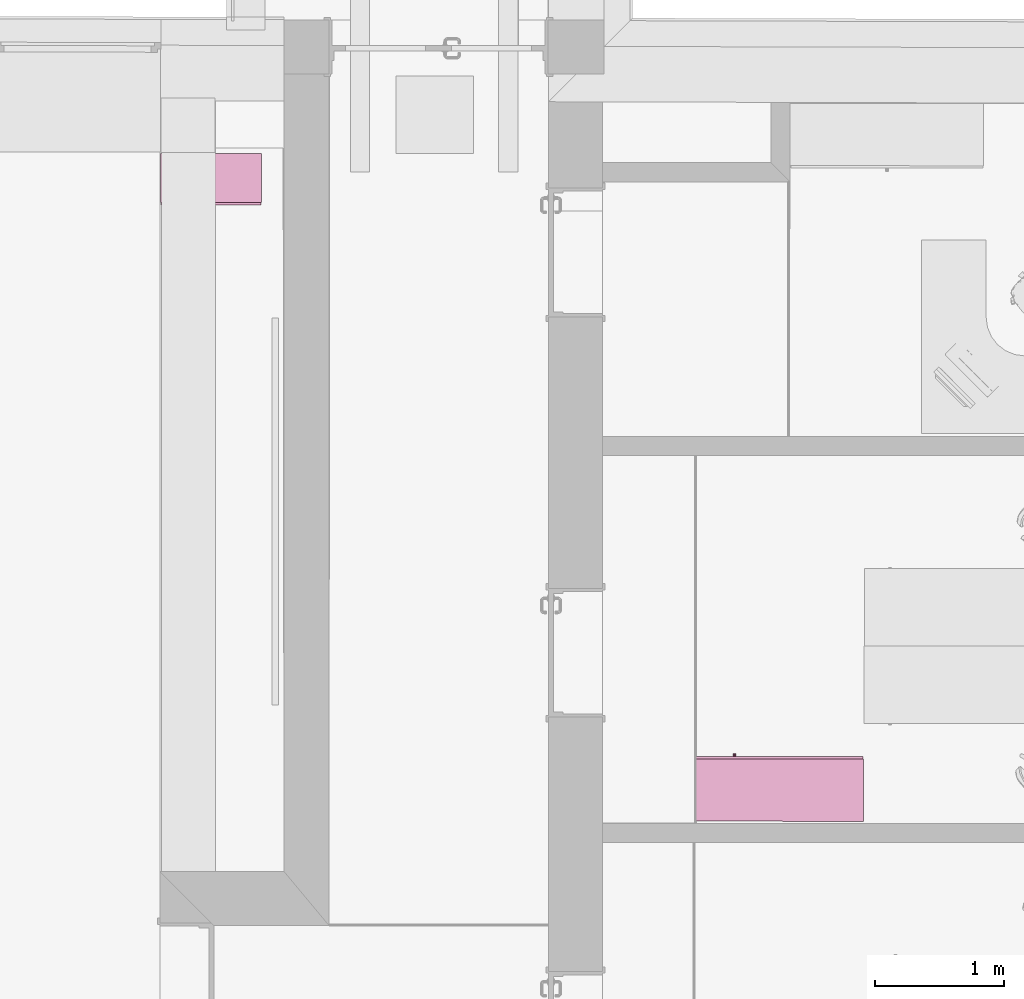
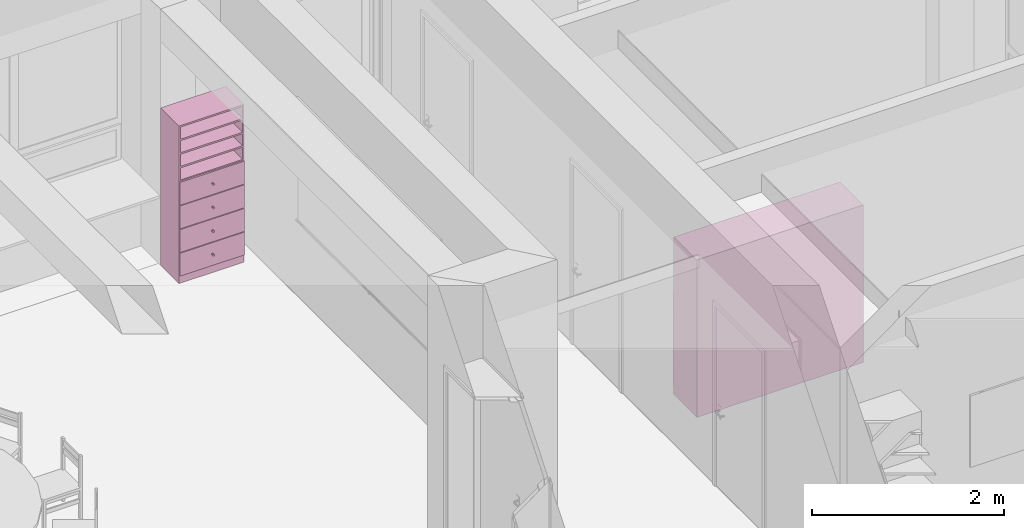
# One storey, part 150 of 194: 2 furnishings.
"""IFC2X3 building model written with IfcOpenShell, lengths in millimetres."""

from ifc_helpers import new_model, entity, si_unit, converted_unit, derived_unit, money_unit, direction, frame, origin_with_axes, place, context, subcontext, project, spatial, faceted_brep, type_object, element, save


model = new_model("IFC2X3")

# Units and contexts
model_context = context("Model", 3, precision=1e-05, world=origin_with_axes(), true_north=direction((0.0, 1.0)))
body_context = subcontext(model_context, "Body", "Model", "MODEL_VIEW")
ifc_project = project(units=[si_unit("LENGTHUNIT", "METRE", prefix="MILLI"), si_unit("AREAUNIT", "SQUARE_METRE"), si_unit("VOLUMEUNIT", "CUBIC_METRE"), converted_unit("PLANEANGLEUNIT", "DEGREE", entity("IfcPlaneAngleMeasure", 0.0174532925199), si_unit("PLANEANGLEUNIT", "RADIAN"), dimensions=[0, 0, 0, 0, 0, 0, 0]), si_unit("SOLIDANGLEUNIT", "STERADIAN"), money_unit("EUR"), converted_unit("TIMEUNIT", "Year", entity("IfcTimeMeasure", 31556926.0), si_unit("TIMEUNIT", "SECOND"), dimensions=[0, 0, 1, 0, 0, 0, 0]), si_unit("MASSUNIT", "GRAM", prefix="KILO"), si_unit("THERMODYNAMICTEMPERATUREUNIT", "DEGREE_CELSIUS"), si_unit("LUMINOUSINTENSITYUNIT", "LUMEN"), si_unit("ENERGYUNIT", "JOULE", prefix="MEGA"), derived_unit("THERMALCONDUCTANCEUNIT", [(si_unit("POWERUNIT", "WATT"), 1), (si_unit("LENGTHUNIT", "METRE"), -1), (si_unit("THERMODYNAMICTEMPERATUREUNIT", "KELVIN"), -1)]), derived_unit("SPECIFICHEATCAPACITYUNIT", [(si_unit("ENERGYUNIT", "JOULE"), 1), (si_unit("MASSUNIT", "GRAM", prefix="KILO"), -1), (si_unit("THERMODYNAMICTEMPERATUREUNIT", "KELVIN"), -1)]), derived_unit("MASSDENSITYUNIT", [(si_unit("MASSUNIT", "GRAM", prefix="KILO"), 1), (si_unit("VOLUMEUNIT", "CUBIC_METRE"), -1)])], contexts=[model_context])

# Site, building, storey
site_placement = place(None, origin_with_axes())
site = spatial("IfcSite", under=ifc_project, at=site_placement, Name="Site", CompositionType="ELEMENT")
building_placement = place(site_placement, origin_with_axes())
building = spatial("IfcBuilding", under=site, at=building_placement, Name="Building", CompositionType="ELEMENT")
storey_placement = place(building_placement, frame((0.0, 0.0, 3000.0), z_axis=(0.0, 0.0, 1.0), x_axis=(1.0, 0.0, 0.0)))
storey = spatial("IfcBuildingStorey", under=building, at=storey_placement, Name="2 KORRUS", CompositionType="ELEMENT", Elevation=3000.0)

# Furnishings
furnishing_element_type_1 = type_object("IfcFurnishingElementType", Name="Model Element 151")
furnishing_1_placement = place(storey_placement, frame((42180.7615968, 17256.984084, 0.0), z_axis=(0.0, 0.0, 1.0), x_axis=(-0.999999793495, 0.000642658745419, 0.0)))
element("IfcFurnishingElement", 1, at=furnishing_1_placement, inside=storey, type_object=furnishing_element_type_1, Name="FU - 001", context=body_context, shape_type="Brep", body=[
    faceted_brep([(2000.0, 19.0, 0.0), (0.0, 19.0, 0.0), (0.0, 501.725363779, 0.0), (2000.0, 501.725363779, 0.0), (2000.0, 19.0, 100.0), (0.0, 19.0, 100.0), (0.0, 501.725363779, 100.0), (2000.0, 501.725363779, 100.0)], [[[0, 1, 2, 3]], [[1, 0, 4, 5]], [[2, 1, 5, 6]], [[3, 2, 6, 7]], [[0, 3, 7, 4]], [[5, 4, 7, 6]]]),
    faceted_brep([(19.0, 501.725363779, 119.0), (19.0, 482.725363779, 119.0), (19.0, 482.725363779, 1981.0), (19.0, 501.725363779, 1981.0), (1981.0, 501.725363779, 119.0), (1981.0, 482.725363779, 119.0), (1981.0, 482.725363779, 1981.0), (1981.0, 501.725363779, 1981.0)], [[[0, 1, 2, 3]], [[0, 4, 5, 1]], [[1, 5, 6, 2]], [[3, 2, 6, 7]], [[4, 0, 3, 7]], [[5, 4, 7, 6]]]),
    faceted_brep([(2000.0, 19.0, 100.0), (1981.0, 19.0, 100.0), (1981.0, 501.725363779, 100.0), (2000.0, 501.725363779, 100.0), (2000.0, 19.0, 2000.0), (1981.0, 19.0, 2000.0), (1981.0, 501.725363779, 2000.0), (2000.0, 501.725363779, 2000.0)], [[[0, 1, 2, 3]], [[1, 0, 4, 5]], [[2, 1, 5, 6]], [[3, 2, 6, 7]], [[0, 3, 7, 4]], [[5, 4, 7, 6]]]),
    faceted_brep([(19.0, 19.0, 100.0), (0.0, 19.0, 100.0), (0.0, 501.725363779, 100.0), (19.0, 501.725363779, 100.0), (19.0, 19.0, 2000.0), (0.0, 19.0, 2000.0), (0.0, 501.725363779, 2000.0), (19.0, 501.725363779, 2000.0)], [[[0, 1, 2, 3]], [[1, 0, 4, 5]], [[2, 1, 5, 6]], [[3, 2, 6, 7]], [[0, 3, 7, 4]], [[5, 4, 7, 6]]]),
    faceted_brep([(1981.0, 19.0, 100.0), (19.0, 19.0, 100.0), (19.0, 501.725363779, 100.0), (1981.0, 501.725363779, 100.0), (1981.0, 19.0, 119.0), (19.0, 19.0, 119.0), (19.0, 501.725363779, 119.0), (1981.0, 501.725363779, 119.0)], [[[0, 1, 2, 3]], [[1, 0, 4, 5]], [[2, 1, 5, 6]], [[3, 2, 6, 7]], [[0, 3, 7, 4]], [[5, 4, 7, 6]]]),
    faceted_brep([(1981.0, 19.0, 1981.0), (19.0, 19.0, 1981.0), (19.0, 501.725363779, 1981.0), (1981.0, 501.725363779, 1981.0), (1981.0, 19.0, 2000.0), (19.0, 19.0, 2000.0), (19.0, 501.725363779, 2000.0), (1981.0, 501.725363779, 2000.0)], [[[0, 1, 2, 3]], [[1, 0, 4, 5]], [[2, 1, 5, 6]], [[3, 2, 6, 7]], [[0, 3, 7, 4]], [[5, 4, 7, 6]]]),
    faceted_brep([(5.0, 19.0, 105.0), (1995.0, 19.0, 105.0), (1995.0, 0.0, 105.0), (5.0, 0.0, 105.0), (5.0, 19.0, 395.0), (1995.0, 19.0, 395.0), (1995.0, 0.0, 395.0), (5.0, 0.0, 395.0)], [[[0, 1, 2, 3]], [[0, 4, 5, 1]], [[1, 5, 6, 2]], [[3, 2, 6, 7]], [[4, 0, 3, 7]], [[5, 4, 7, 6]]]),
    faceted_brep([(1010.39230485, 0.0, 244.0), (1006.0, 0.0, 239.607695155), (1000.0, 0.0, 238.0), (994.0, 0.0, 239.607695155), (989.607695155, 0.0, 244.0), (988.0, 0.0, 250.0), (989.607695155, 0.0, 256.0), (994.0, 0.0, 260.392304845), (1000.0, 0.0, 262.0), (1006.0, 0.0, 260.392304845), (1010.39230485, 0.0, 256.0), (1012.0, 0.0, 250.0), (1010.39230485, -25.0, 244.0), (1006.0, -25.0, 239.607695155), (1000.0, -25.0, 238.0), (994.0, -25.0, 239.607695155), (989.607695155, -25.0, 244.0), (988.0, -25.0, 250.0), (989.607695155, -25.0, 256.0), (994.0, -25.0, 260.392304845), (1000.0, -25.0, 262.0), (1006.0, -25.0, 260.392304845), (1010.39230485, -25.0, 256.0), (1012.0, -25.0, 250.0)], [[[0, 1, 2, 3, 4, 5, 6, 7, 8, 9, 10, 11]], [[1, 0, 12, 13]], [[2, 1, 13, 14]], [[3, 2, 14, 15]], [[4, 3, 15, 16]], [[5, 4, 16, 17]], [[6, 5, 17, 18]], [[7, 6, 18, 19]], [[8, 7, 19, 20]], [[9, 8, 20, 21]], [[10, 9, 21, 22]], [[11, 10, 22, 23]], [[0, 11, 23, 12]], [[12, 23, 22, 21, 20, 19, 18, 17, 16, 15, 14, 13]]]),
    faceted_brep([(5.0, 19.0, 405.0), (1995.0, 19.0, 405.0), (1995.0, 0.0, 405.0), (5.0, 0.0, 405.0), (5.0, 19.0, 695.0), (1995.0, 19.0, 695.0), (1995.0, 0.0, 695.0), (5.0, 0.0, 695.0)], [[[0, 1, 2, 3]], [[0, 4, 5, 1]], [[1, 5, 6, 2]], [[3, 2, 6, 7]], [[4, 0, 3, 7]], [[5, 4, 7, 6]]]),
    faceted_brep([(1010.39230485, 0.0, 544.0), (1006.0, 0.0, 539.607695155), (1000.0, 0.0, 538.0), (994.0, 0.0, 539.607695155), (989.607695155, 0.0, 544.0), (988.0, 0.0, 550.0), (989.607695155, 0.0, 556.0), (994.0, 0.0, 560.392304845), (1000.0, 0.0, 562.0), (1006.0, 0.0, 560.392304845), (1010.39230485, 0.0, 556.0), (1012.0, 0.0, 550.0), (1010.39230485, -25.0, 544.0), (1006.0, -25.0, 539.607695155), (1000.0, -25.0, 538.0), (994.0, -25.0, 539.607695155), (989.607695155, -25.0, 544.0), (988.0, -25.0, 550.0), (989.607695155, -25.0, 556.0), (994.0, -25.0, 560.392304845), (1000.0, -25.0, 562.0), (1006.0, -25.0, 560.392304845), (1010.39230485, -25.0, 556.0), (1012.0, -25.0, 550.0)], [[[0, 1, 2, 3, 4, 5, 6, 7, 8, 9, 10, 11]], [[1, 0, 12, 13]], [[2, 1, 13, 14]], [[3, 2, 14, 15]], [[4, 3, 15, 16]], [[5, 4, 16, 17]], [[6, 5, 17, 18]], [[7, 6, 18, 19]], [[8, 7, 19, 20]], [[9, 8, 20, 21]], [[10, 9, 21, 22]], [[11, 10, 22, 23]], [[0, 11, 23, 12]], [[12, 23, 22, 21, 20, 19, 18, 17, 16, 15, 14, 13]]]),
    faceted_brep([(5.0, 19.0, 705.0), (1995.0, 19.0, 705.0), (1995.0, 0.0, 705.0), (5.0, 0.0, 705.0), (5.0, 19.0, 995.0), (1995.0, 19.0, 995.0), (1995.0, 0.0, 995.0), (5.0, 0.0, 995.0)], [[[0, 1, 2, 3]], [[0, 4, 5, 1]], [[1, 5, 6, 2]], [[3, 2, 6, 7]], [[4, 0, 3, 7]], [[5, 4, 7, 6]]]),
    faceted_brep([(1010.39230485, 0.0, 844.0), (1006.0, 0.0, 839.607695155), (1000.0, 0.0, 838.0), (994.0, 0.0, 839.607695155), (989.607695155, 0.0, 844.0), (988.0, 0.0, 850.0), (989.607695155, 0.0, 856.0), (994.0, 0.0, 860.392304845), (1000.0, 0.0, 862.0), (1006.0, 0.0, 860.392304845), (1010.39230485, 0.0, 856.0), (1012.0, 0.0, 850.0), (1010.39230485, -25.0, 844.0), (1006.0, -25.0, 839.607695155), (1000.0, -25.0, 838.0), (994.0, -25.0, 839.607695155), (989.607695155, -25.0, 844.0), (988.0, -25.0, 850.0), (989.607695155, -25.0, 856.0), (994.0, -25.0, 860.392304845), (1000.0, -25.0, 862.0), (1006.0, -25.0, 860.392304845), (1010.39230485, -25.0, 856.0), (1012.0, -25.0, 850.0)], [[[0, 1, 2, 3, 4, 5, 6, 7, 8, 9, 10, 11]], [[1, 0, 12, 13]], [[2, 1, 13, 14]], [[3, 2, 14, 15]], [[4, 3, 15, 16]], [[5, 4, 16, 17]], [[6, 5, 17, 18]], [[7, 6, 18, 19]], [[8, 7, 19, 20]], [[9, 8, 20, 21]], [[10, 9, 21, 22]], [[11, 10, 22, 23]], [[0, 11, 23, 12]], [[12, 23, 22, 21, 20, 19, 18, 17, 16, 15, 14, 13]]]),
    faceted_brep([(5.0, 19.0, 1005.0), (1995.0, 19.0, 1005.0), (1995.0, 0.0, 1005.0), (5.0, 0.0, 1005.0), (5.0, 19.0, 1295.0), (1995.0, 19.0, 1295.0), (1995.0, 0.0, 1295.0), (5.0, 0.0, 1295.0)], [[[0, 1, 2, 3]], [[0, 4, 5, 1]], [[1, 5, 6, 2]], [[3, 2, 6, 7]], [[4, 0, 3, 7]], [[5, 4, 7, 6]]]),
    faceted_brep([(1010.39230485, 0.0, 1144.0), (1006.0, 0.0, 1139.60769515), (1000.0, 0.0, 1138.0), (994.0, 0.0, 1139.60769515), (989.607695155, 0.0, 1144.0), (988.0, 0.0, 1150.0), (989.607695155, 0.0, 1156.0), (994.0, 0.0, 1160.39230485), (1000.0, 0.0, 1162.0), (1006.0, 0.0, 1160.39230485), (1010.39230485, 0.0, 1156.0), (1012.0, 0.0, 1150.0), (1010.39230485, -25.0, 1144.0), (1006.0, -25.0, 1139.60769515), (1000.0, -25.0, 1138.0), (994.0, -25.0, 1139.60769515), (989.607695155, -25.0, 1144.0), (988.0, -25.0, 1150.0), (989.607695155, -25.0, 1156.0), (994.0, -25.0, 1160.39230485), (1000.0, -25.0, 1162.0), (1006.0, -25.0, 1160.39230485), (1010.39230485, -25.0, 1156.0), (1012.0, -25.0, 1150.0)], [[[0, 1, 2, 3, 4, 5, 6, 7, 8, 9, 10, 11]], [[1, 0, 12, 13]], [[2, 1, 13, 14]], [[3, 2, 14, 15]], [[4, 3, 15, 16]], [[5, 4, 16, 17]], [[6, 5, 17, 18]], [[7, 6, 18, 19]], [[8, 7, 19, 20]], [[9, 8, 20, 21]], [[10, 9, 21, 22]], [[11, 10, 22, 23]], [[0, 11, 23, 12]], [[12, 23, 22, 21, 20, 19, 18, 17, 16, 15, 14, 13]]]),
    faceted_brep([(19.0, 19.0, 390.5), (1981.0, 19.0, 390.5), (1981.0, 19.0, 409.5), (19.0, 19.0, 409.5), (19.0, 482.725363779, 390.5), (1981.0, 482.725363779, 390.5), (1981.0, 482.725363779, 409.5), (19.0, 482.725363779, 409.5)], [[[0, 1, 2, 3]], [[0, 4, 5, 1]], [[1, 5, 6, 2]], [[3, 2, 6, 7]], [[4, 0, 3, 7]], [[5, 4, 7, 6]]]),
    faceted_brep([(19.0, 19.0, 690.5), (1981.0, 19.0, 690.5), (1981.0, 19.0, 709.5), (19.0, 19.0, 709.5), (19.0, 482.725363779, 690.5), (1981.0, 482.725363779, 690.5), (1981.0, 482.725363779, 709.5), (19.0, 482.725363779, 709.5)], [[[0, 1, 2, 3]], [[0, 4, 5, 1]], [[1, 5, 6, 2]], [[3, 2, 6, 7]], [[4, 0, 3, 7]], [[5, 4, 7, 6]]]),
    faceted_brep([(19.0, 19.0, 990.5), (1981.0, 19.0, 990.5), (1981.0, 19.0, 1009.5), (19.0, 19.0, 1009.5), (19.0, 482.725363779, 990.5), (1981.0, 482.725363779, 990.5), (1981.0, 482.725363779, 1009.5), (19.0, 482.725363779, 1009.5)], [[[0, 1, 2, 3]], [[0, 4, 5, 1]], [[1, 5, 6, 2]], [[3, 2, 6, 7]], [[4, 0, 3, 7]], [[5, 4, 7, 6]]]),
    faceted_brep([(19.0, 19.0, 1290.5), (1981.0, 19.0, 1290.5), (1981.0, 19.0, 1309.5), (19.0, 19.0, 1309.5), (19.0, 482.725363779, 1290.5), (1981.0, 482.725363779, 1290.5), (1981.0, 482.725363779, 1309.5), (19.0, 482.725363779, 1309.5)], [[[0, 1, 2, 3]], [[0, 4, 5, 1]], [[1, 5, 6, 2]], [[3, 2, 6, 7]], [[4, 0, 3, 7]], [[5, 4, 7, 6]]]),
    faceted_brep([(1981.0, 19.0, 1463.125), (19.0, 19.0, 1463.125), (19.0, 482.725363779, 1463.125), (1981.0, 482.725363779, 1463.125), (1981.0, 19.0, 1482.125), (19.0, 19.0, 1482.125), (19.0, 482.725363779, 1482.125), (1981.0, 482.725363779, 1482.125)], [[[0, 1, 2, 3]], [[1, 0, 4, 5]], [[2, 1, 5, 6]], [[3, 2, 6, 7]], [[0, 3, 7, 4]], [[5, 4, 7, 6]]]),
    faceted_brep([(1981.0, 19.0, 1635.75), (19.0, 19.0, 1635.75), (19.0, 482.725363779, 1635.75), (1981.0, 482.725363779, 1635.75), (1981.0, 19.0, 1654.75), (19.0, 19.0, 1654.75), (19.0, 482.725363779, 1654.75), (1981.0, 482.725363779, 1654.75)], [[[0, 1, 2, 3]], [[1, 0, 4, 5]], [[2, 1, 5, 6]], [[3, 2, 6, 7]], [[0, 3, 7, 4]], [[5, 4, 7, 6]]]),
    faceted_brep([(1981.0, 19.0, 1808.375), (19.0, 19.0, 1808.375), (19.0, 482.725363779, 1808.375), (1981.0, 482.725363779, 1808.375), (1981.0, 19.0, 1827.375), (19.0, 19.0, 1827.375), (19.0, 482.725363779, 1827.375), (1981.0, 482.725363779, 1827.375)], [[[0, 1, 2, 3]], [[1, 0, 4, 5]], [[2, 1, 5, 6]], [[3, 2, 6, 7]], [[0, 3, 7, 4]], [[5, 4, 7, 6]]]),
])
furnishing_element_type_2 = type_object("IfcFurnishingElementType", Name="Model Element 149")
furnishing_2_placement = place(storey_placement, frame((36730.9693588, 21532.8404653, 0.0), z_axis=(0.0, 0.0, 1.0), x_axis=(1.0, 0.0, 0.0)))
element("IfcFurnishingElement", 2, at=furnishing_2_placement, inside=storey, type_object=furnishing_element_type_2, Name="FU - 001", context=body_context, shape_type="Brep", body=[
    faceted_brep([(784.105356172, 19.0, 0.0), (0.0, 19.0, 0.0), (0.0, 400.0, 0.0), (784.105356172, 400.0, 0.0), (784.105356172, 19.0, 100.0), (0.0, 19.0, 100.0), (0.0, 400.0, 100.0), (784.105356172, 400.0, 100.0)], [[[0, 1, 2, 3]], [[1, 0, 4, 5]], [[2, 1, 5, 6]], [[3, 2, 6, 7]], [[0, 3, 7, 4]], [[5, 4, 7, 6]]]),
    faceted_brep([(19.0, 400.0, 119.0), (19.0, 381.0, 119.0), (19.0, 381.0, 1981.0), (19.0, 400.0, 1981.0), (765.105356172, 400.0, 119.0), (765.105356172, 381.0, 119.0), (765.105356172, 381.0, 1981.0), (765.105356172, 400.0, 1981.0)], [[[0, 1, 2, 3]], [[0, 4, 5, 1]], [[1, 5, 6, 2]], [[3, 2, 6, 7]], [[4, 0, 3, 7]], [[5, 4, 7, 6]]]),
    faceted_brep([(784.105356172, 19.0, 100.0), (765.105356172, 19.0, 100.0), (765.105356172, 400.0, 100.0), (784.105356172, 400.0, 100.0), (784.105356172, 19.0, 2000.0), (765.105356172, 19.0, 2000.0), (765.105356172, 400.0, 2000.0), (784.105356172, 400.0, 2000.0)], [[[0, 1, 2, 3]], [[1, 0, 4, 5]], [[2, 1, 5, 6]], [[3, 2, 6, 7]], [[0, 3, 7, 4]], [[5, 4, 7, 6]]]),
    faceted_brep([(19.0, 19.0, 100.0), (0.0, 19.0, 100.0), (0.0, 400.0, 100.0), (19.0, 400.0, 100.0), (19.0, 19.0, 2000.0), (0.0, 19.0, 2000.0), (0.0, 400.0, 2000.0), (19.0, 400.0, 2000.0)], [[[0, 1, 2, 3]], [[1, 0, 4, 5]], [[2, 1, 5, 6]], [[3, 2, 6, 7]], [[0, 3, 7, 4]], [[5, 4, 7, 6]]]),
    faceted_brep([(765.105356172, 19.0, 100.0), (19.0, 19.0, 100.0), (19.0, 400.0, 100.0), (765.105356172, 400.0, 100.0), (765.105356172, 19.0, 119.0), (19.0, 19.0, 119.0), (19.0, 400.0, 119.0), (765.105356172, 400.0, 119.0)], [[[0, 1, 2, 3]], [[1, 0, 4, 5]], [[2, 1, 5, 6]], [[3, 2, 6, 7]], [[0, 3, 7, 4]], [[5, 4, 7, 6]]]),
    faceted_brep([(765.105356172, 19.0, 1981.0), (19.0, 19.0, 1981.0), (19.0, 400.0, 1981.0), (765.105356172, 400.0, 1981.0), (765.105356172, 19.0, 2000.0), (19.0, 19.0, 2000.0), (19.0, 400.0, 2000.0), (765.105356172, 400.0, 2000.0)], [[[0, 1, 2, 3]], [[1, 0, 4, 5]], [[2, 1, 5, 6]], [[3, 2, 6, 7]], [[0, 3, 7, 4]], [[5, 4, 7, 6]]]),
    faceted_brep([(5.0, 19.0, 105.0), (779.105356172, 19.0, 105.0), (779.105356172, 0.0, 105.0), (5.0, 0.0, 105.0), (5.0, 19.0, 395.0), (779.105356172, 19.0, 395.0), (779.105356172, 0.0, 395.0), (5.0, 0.0, 395.0)], [[[0, 1, 2, 3]], [[0, 4, 5, 1]], [[1, 5, 6, 2]], [[3, 2, 6, 7]], [[4, 0, 3, 7]], [[5, 4, 7, 6]]]),
    faceted_brep([(402.444982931, 0.0, 244.0), (398.052678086, 0.0, 239.607695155), (392.052678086, 0.0, 238.0), (386.052678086, 0.0, 239.607695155), (381.66037324, 0.0, 244.0), (380.052678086, 0.0, 250.0), (381.66037324, 0.0, 256.0), (386.052678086, 0.0, 260.392304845), (392.052678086, 0.0, 262.0), (398.052678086, 0.0, 260.392304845), (402.444982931, 0.0, 256.0), (404.052678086, 0.0, 250.0), (402.444982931, -25.0, 244.0), (398.052678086, -25.0, 239.607695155), (392.052678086, -25.0, 238.0), (386.052678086, -25.0, 239.607695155), (381.66037324, -25.0, 244.0), (380.052678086, -25.0, 250.0), (381.66037324, -25.0, 256.0), (386.052678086, -25.0, 260.392304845), (392.052678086, -25.0, 262.0), (398.052678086, -25.0, 260.392304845), (402.444982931, -25.0, 256.0), (404.052678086, -25.0, 250.0)], [[[0, 1, 2, 3, 4, 5, 6, 7, 8, 9, 10, 11]], [[1, 0, 12, 13]], [[2, 1, 13, 14]], [[3, 2, 14, 15]], [[4, 3, 15, 16]], [[5, 4, 16, 17]], [[6, 5, 17, 18]], [[7, 6, 18, 19]], [[8, 7, 19, 20]], [[9, 8, 20, 21]], [[10, 9, 21, 22]], [[11, 10, 22, 23]], [[0, 11, 23, 12]], [[12, 23, 22, 21, 20, 19, 18, 17, 16, 15, 14, 13]]]),
    faceted_brep([(5.0, 19.0, 405.0), (779.105356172, 19.0, 405.0), (779.105356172, 0.0, 405.0), (5.0, 0.0, 405.0), (5.0, 19.0, 695.0), (779.105356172, 19.0, 695.0), (779.105356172, 0.0, 695.0), (5.0, 0.0, 695.0)], [[[0, 1, 2, 3]], [[0, 4, 5, 1]], [[1, 5, 6, 2]], [[3, 2, 6, 7]], [[4, 0, 3, 7]], [[5, 4, 7, 6]]]),
    faceted_brep([(402.444982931, 0.0, 544.0), (398.052678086, 0.0, 539.607695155), (392.052678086, 0.0, 538.0), (386.052678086, 0.0, 539.607695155), (381.66037324, 0.0, 544.0), (380.052678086, 0.0, 550.0), (381.66037324, 0.0, 556.0), (386.052678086, 0.0, 560.392304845), (392.052678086, 0.0, 562.0), (398.052678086, 0.0, 560.392304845), (402.444982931, 0.0, 556.0), (404.052678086, 0.0, 550.0), (402.444982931, -25.0, 544.0), (398.052678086, -25.0, 539.607695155), (392.052678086, -25.0, 538.0), (386.052678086, -25.0, 539.607695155), (381.66037324, -25.0, 544.0), (380.052678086, -25.0, 550.0), (381.66037324, -25.0, 556.0), (386.052678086, -25.0, 560.392304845), (392.052678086, -25.0, 562.0), (398.052678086, -25.0, 560.392304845), (402.444982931, -25.0, 556.0), (404.052678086, -25.0, 550.0)], [[[0, 1, 2, 3, 4, 5, 6, 7, 8, 9, 10, 11]], [[1, 0, 12, 13]], [[2, 1, 13, 14]], [[3, 2, 14, 15]], [[4, 3, 15, 16]], [[5, 4, 16, 17]], [[6, 5, 17, 18]], [[7, 6, 18, 19]], [[8, 7, 19, 20]], [[9, 8, 20, 21]], [[10, 9, 21, 22]], [[11, 10, 22, 23]], [[0, 11, 23, 12]], [[12, 23, 22, 21, 20, 19, 18, 17, 16, 15, 14, 13]]]),
    faceted_brep([(5.0, 19.0, 705.0), (779.105356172, 19.0, 705.0), (779.105356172, 0.0, 705.0), (5.0, 0.0, 705.0), (5.0, 19.0, 995.0), (779.105356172, 19.0, 995.0), (779.105356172, 0.0, 995.0), (5.0, 0.0, 995.0)], [[[0, 1, 2, 3]], [[0, 4, 5, 1]], [[1, 5, 6, 2]], [[3, 2, 6, 7]], [[4, 0, 3, 7]], [[5, 4, 7, 6]]]),
    faceted_brep([(402.444982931, 0.0, 844.0), (398.052678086, 0.0, 839.607695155), (392.052678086, 0.0, 838.0), (386.052678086, 0.0, 839.607695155), (381.66037324, 0.0, 844.0), (380.052678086, 0.0, 850.0), (381.66037324, 0.0, 856.0), (386.052678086, 0.0, 860.392304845), (392.052678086, 0.0, 862.0), (398.052678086, 0.0, 860.392304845), (402.444982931, 0.0, 856.0), (404.052678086, 0.0, 850.0), (402.444982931, -25.0, 844.0), (398.052678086, -25.0, 839.607695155), (392.052678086, -25.0, 838.0), (386.052678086, -25.0, 839.607695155), (381.66037324, -25.0, 844.0), (380.052678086, -25.0, 850.0), (381.66037324, -25.0, 856.0), (386.052678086, -25.0, 860.392304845), (392.052678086, -25.0, 862.0), (398.052678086, -25.0, 860.392304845), (402.444982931, -25.0, 856.0), (404.052678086, -25.0, 850.0)], [[[0, 1, 2, 3, 4, 5, 6, 7, 8, 9, 10, 11]], [[1, 0, 12, 13]], [[2, 1, 13, 14]], [[3, 2, 14, 15]], [[4, 3, 15, 16]], [[5, 4, 16, 17]], [[6, 5, 17, 18]], [[7, 6, 18, 19]], [[8, 7, 19, 20]], [[9, 8, 20, 21]], [[10, 9, 21, 22]], [[11, 10, 22, 23]], [[0, 11, 23, 12]], [[12, 23, 22, 21, 20, 19, 18, 17, 16, 15, 14, 13]]]),
    faceted_brep([(5.0, 19.0, 1005.0), (779.105356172, 19.0, 1005.0), (779.105356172, 0.0, 1005.0), (5.0, 0.0, 1005.0), (5.0, 19.0, 1295.0), (779.105356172, 19.0, 1295.0), (779.105356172, 0.0, 1295.0), (5.0, 0.0, 1295.0)], [[[0, 1, 2, 3]], [[0, 4, 5, 1]], [[1, 5, 6, 2]], [[3, 2, 6, 7]], [[4, 0, 3, 7]], [[5, 4, 7, 6]]]),
    faceted_brep([(402.444982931, 0.0, 1144.0), (398.052678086, 0.0, 1139.60769515), (392.052678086, 0.0, 1138.0), (386.052678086, 0.0, 1139.60769515), (381.66037324, 0.0, 1144.0), (380.052678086, 0.0, 1150.0), (381.66037324, 0.0, 1156.0), (386.052678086, 0.0, 1160.39230485), (392.052678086, 0.0, 1162.0), (398.052678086, 0.0, 1160.39230485), (402.444982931, 0.0, 1156.0), (404.052678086, 0.0, 1150.0), (402.444982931, -25.0, 1144.0), (398.052678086, -25.0, 1139.60769515), (392.052678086, -25.0, 1138.0), (386.052678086, -25.0, 1139.60769515), (381.66037324, -25.0, 1144.0), (380.052678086, -25.0, 1150.0), (381.66037324, -25.0, 1156.0), (386.052678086, -25.0, 1160.39230485), (392.052678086, -25.0, 1162.0), (398.052678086, -25.0, 1160.39230485), (402.444982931, -25.0, 1156.0), (404.052678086, -25.0, 1150.0)], [[[0, 1, 2, 3, 4, 5, 6, 7, 8, 9, 10, 11]], [[1, 0, 12, 13]], [[2, 1, 13, 14]], [[3, 2, 14, 15]], [[4, 3, 15, 16]], [[5, 4, 16, 17]], [[6, 5, 17, 18]], [[7, 6, 18, 19]], [[8, 7, 19, 20]], [[9, 8, 20, 21]], [[10, 9, 21, 22]], [[11, 10, 22, 23]], [[0, 11, 23, 12]], [[12, 23, 22, 21, 20, 19, 18, 17, 16, 15, 14, 13]]]),
    faceted_brep([(19.0, 19.0, 390.5), (765.105356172, 19.0, 390.5), (765.105356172, 19.0, 409.5), (19.0, 19.0, 409.5), (19.0, 381.0, 390.5), (765.105356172, 381.0, 390.5), (765.105356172, 381.0, 409.5), (19.0, 381.0, 409.5)], [[[0, 1, 2, 3]], [[0, 4, 5, 1]], [[1, 5, 6, 2]], [[3, 2, 6, 7]], [[4, 0, 3, 7]], [[5, 4, 7, 6]]]),
    faceted_brep([(19.0, 19.0, 690.5), (765.105356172, 19.0, 690.5), (765.105356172, 19.0, 709.5), (19.0, 19.0, 709.5), (19.0, 381.0, 690.5), (765.105356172, 381.0, 690.5), (765.105356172, 381.0, 709.5), (19.0, 381.0, 709.5)], [[[0, 1, 2, 3]], [[0, 4, 5, 1]], [[1, 5, 6, 2]], [[3, 2, 6, 7]], [[4, 0, 3, 7]], [[5, 4, 7, 6]]]),
    faceted_brep([(19.0, 19.0, 990.5), (765.105356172, 19.0, 990.5), (765.105356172, 19.0, 1009.5), (19.0, 19.0, 1009.5), (19.0, 381.0, 990.5), (765.105356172, 381.0, 990.5), (765.105356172, 381.0, 1009.5), (19.0, 381.0, 1009.5)], [[[0, 1, 2, 3]], [[0, 4, 5, 1]], [[1, 5, 6, 2]], [[3, 2, 6, 7]], [[4, 0, 3, 7]], [[5, 4, 7, 6]]]),
    faceted_brep([(19.0, 19.0, 1290.5), (765.105356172, 19.0, 1290.5), (765.105356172, 19.0, 1309.5), (19.0, 19.0, 1309.5), (19.0, 381.0, 1290.5), (765.105356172, 381.0, 1290.5), (765.105356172, 381.0, 1309.5), (19.0, 381.0, 1309.5)], [[[0, 1, 2, 3]], [[0, 4, 5, 1]], [[1, 5, 6, 2]], [[3, 2, 6, 7]], [[4, 0, 3, 7]], [[5, 4, 7, 6]]]),
    faceted_brep([(765.105356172, 19.0, 1463.125), (19.0, 19.0, 1463.125), (19.0, 381.0, 1463.125), (765.105356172, 381.0, 1463.125), (765.105356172, 19.0, 1482.125), (19.0, 19.0, 1482.125), (19.0, 381.0, 1482.125), (765.105356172, 381.0, 1482.125)], [[[0, 1, 2, 3]], [[1, 0, 4, 5]], [[2, 1, 5, 6]], [[3, 2, 6, 7]], [[0, 3, 7, 4]], [[5, 4, 7, 6]]]),
    faceted_brep([(765.105356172, 19.0, 1635.75), (19.0, 19.0, 1635.75), (19.0, 381.0, 1635.75), (765.105356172, 381.0, 1635.75), (765.105356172, 19.0, 1654.75), (19.0, 19.0, 1654.75), (19.0, 381.0, 1654.75), (765.105356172, 381.0, 1654.75)], [[[0, 1, 2, 3]], [[1, 0, 4, 5]], [[2, 1, 5, 6]], [[3, 2, 6, 7]], [[0, 3, 7, 4]], [[5, 4, 7, 6]]]),
    faceted_brep([(765.105356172, 19.0, 1808.375), (19.0, 19.0, 1808.375), (19.0, 381.0, 1808.375), (765.105356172, 381.0, 1808.375), (765.105356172, 19.0, 1827.375), (19.0, 19.0, 1827.375), (19.0, 381.0, 1827.375), (765.105356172, 381.0, 1827.375)], [[[0, 1, 2, 3]], [[1, 0, 4, 5]], [[2, 1, 5, 6]], [[3, 2, 6, 7]], [[0, 3, 7, 4]], [[5, 4, 7, 6]]]),
])

save(model, "model.ifc")
